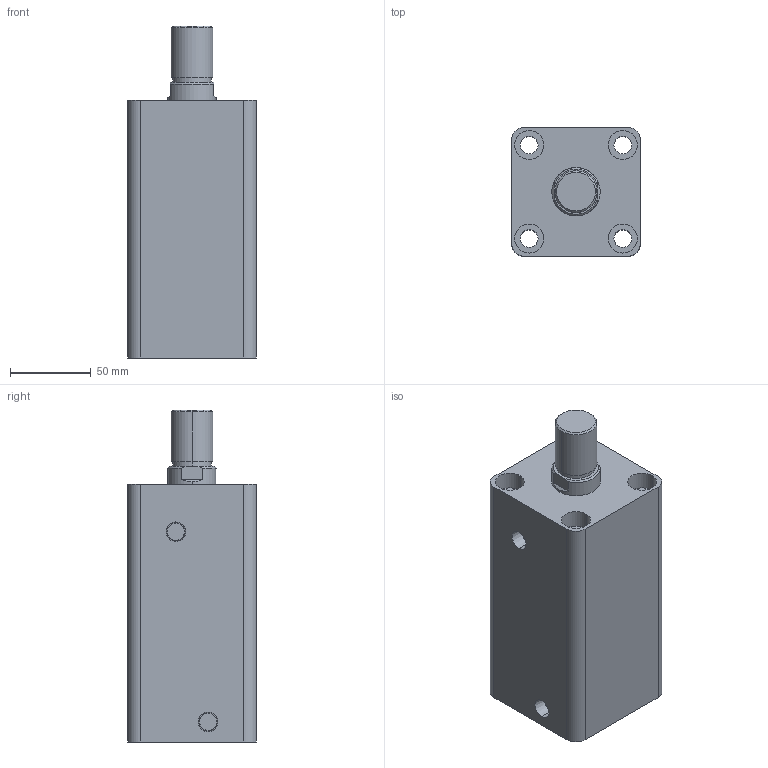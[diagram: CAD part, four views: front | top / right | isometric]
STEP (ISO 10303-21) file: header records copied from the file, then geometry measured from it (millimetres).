
FILE_DESCRIPTION (( 'STEP AP203' ), '1' );
FILE_NAME ('HTB-SD50-100W.STEP', '2019-10-07T07:23:52', ( '微软用户' ), ( '微软中国' ), 'SwSTEP 2.0', 'SolidWorks 2012', '' );
FILE_SCHEMA (( 'CONFIG_CONTROL_DESIGN' ));
Length unit declared in the file: millimetre
Products named in the file (3): HTB-SD50-100W; HTB-SD50-100W活塞杆; HTB-SD50-9100掛极
Assembly tree (2 placements, depth 2):
  HTB-SD50-100W
    HTB-SD50-9100掛极
    HTB-SD50-100W活塞杆
Bounding box: 80 x 80 x 206 mm (x, y, z)
Volume: 838099.3 mm3; surface area: 133095.6 mm2
Topology: 2 solids, 2 shells, 87 faces, 190 edges, 124 vertices
Faces by surface type: cylinder 44, plane 29, cone 8, torus 6
Entity records: 2761 total; most frequent: DIRECTION 478, CARTESIAN_POINT 434, ORIENTED_EDGE 380, AXIS2_PLACEMENT_3D 204, EDGE_CURVE 190, VERTEX_POINT 124, CIRCLE 112, EDGE_LOOP 112
